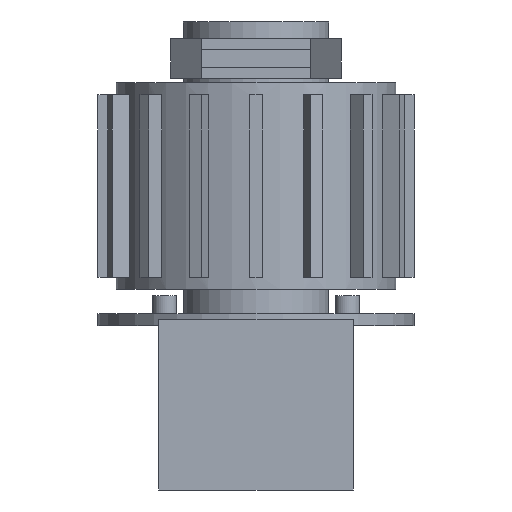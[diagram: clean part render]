
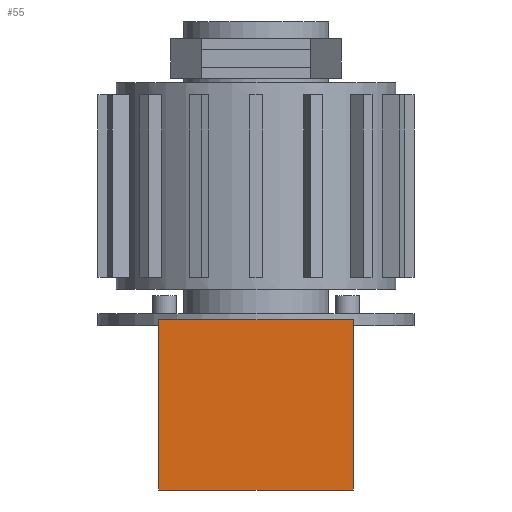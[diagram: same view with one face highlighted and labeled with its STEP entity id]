
A CAD part, left-side view. The second image highlights one B-rep face of the part: STEP entity #55.
In plain terms, the highlighted planar face has unit normal (-1, 0, 0).
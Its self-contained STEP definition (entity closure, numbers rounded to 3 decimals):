
#55 = ADVANCED_FACE('',(#56),#90,.F.);
#56 = FACE_BOUND('',#57,.F.);
#57 = EDGE_LOOP('',(#58,#68,#76,#84));
#58 = ORIENTED_EDGE('',*,*,#59,.F.);
#59 = EDGE_CURVE('',#60,#62,#64,.T.);
#60 = VERTEX_POINT('',#61);
#61 = CARTESIAN_POINT('',(0.,-16.,-14.));
#62 = VERTEX_POINT('',#63);
#63 = CARTESIAN_POINT('',(0.,-16.,14.));
#64 = LINE('',#65,#66);
#65 = CARTESIAN_POINT('',(0.,-16.,-14.));
#66 = VECTOR('',#67,1.);
#67 = DIRECTION('',(0.,0.,1.));
#68 = ORIENTED_EDGE('',*,*,#69,.T.);
#69 = EDGE_CURVE('',#60,#70,#72,.T.);
#70 = VERTEX_POINT('',#71);
#71 = CARTESIAN_POINT('',(0.,16.,-14.));
#72 = LINE('',#73,#74);
#73 = CARTESIAN_POINT('',(0.,-16.,-14.));
#74 = VECTOR('',#75,1.);
#75 = DIRECTION('',(-0.,1.,0.));
#76 = ORIENTED_EDGE('',*,*,#77,.T.);
#77 = EDGE_CURVE('',#70,#78,#80,.T.);
#78 = VERTEX_POINT('',#79);
#79 = CARTESIAN_POINT('',(0.,16.,14.));
#80 = LINE('',#81,#82);
#81 = CARTESIAN_POINT('',(0.,16.,-14.));
#82 = VECTOR('',#83,1.);
#83 = DIRECTION('',(0.,0.,1.));
#84 = ORIENTED_EDGE('',*,*,#85,.F.);
#85 = EDGE_CURVE('',#62,#78,#86,.T.);
#86 = LINE('',#87,#88);
#87 = CARTESIAN_POINT('',(0.,-16.,14.));
#88 = VECTOR('',#89,1.);
#89 = DIRECTION('',(-0.,1.,0.));
#90 = PLANE('',#91);
#91 = AXIS2_PLACEMENT_3D('',#92,#93,#94);
#92 = CARTESIAN_POINT('',(0.,-16.,-14.));
#93 = DIRECTION('',(1.,0.,-0.));
#94 = DIRECTION('',(0.,0.,1.));
